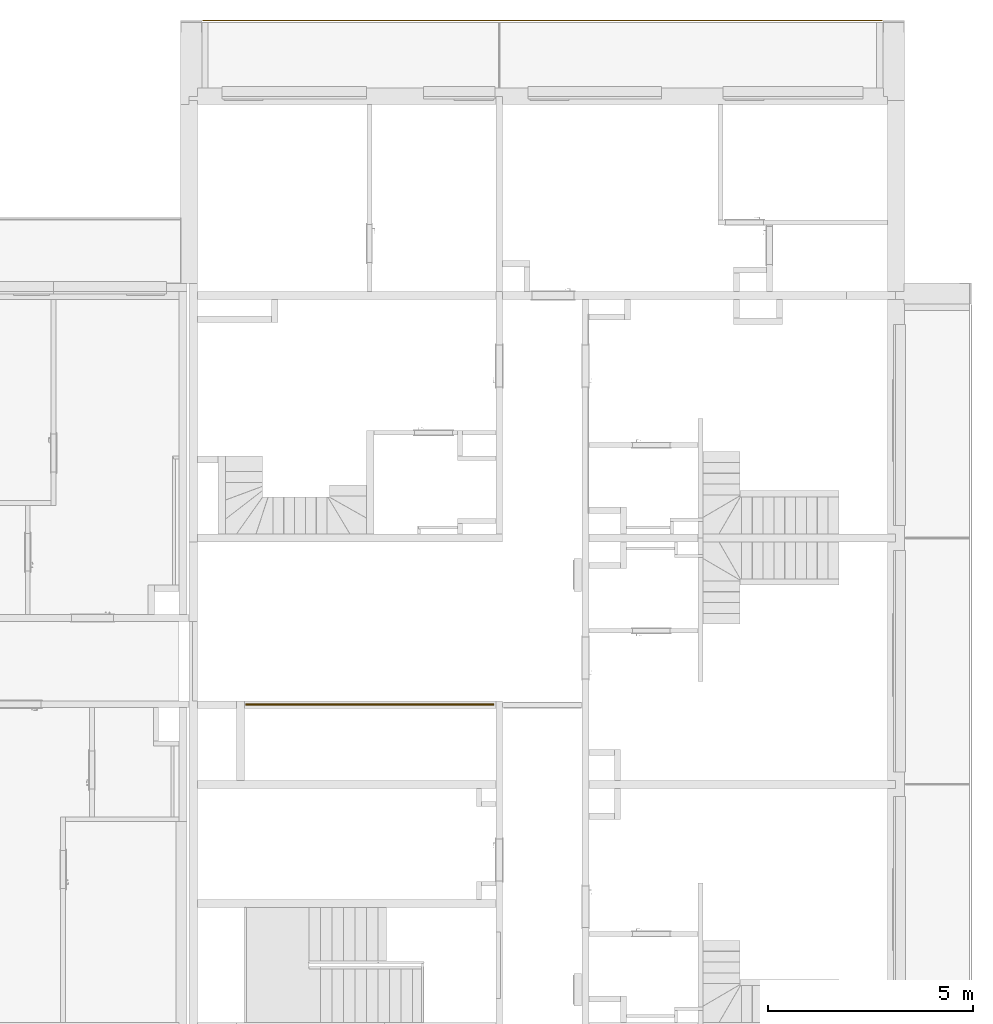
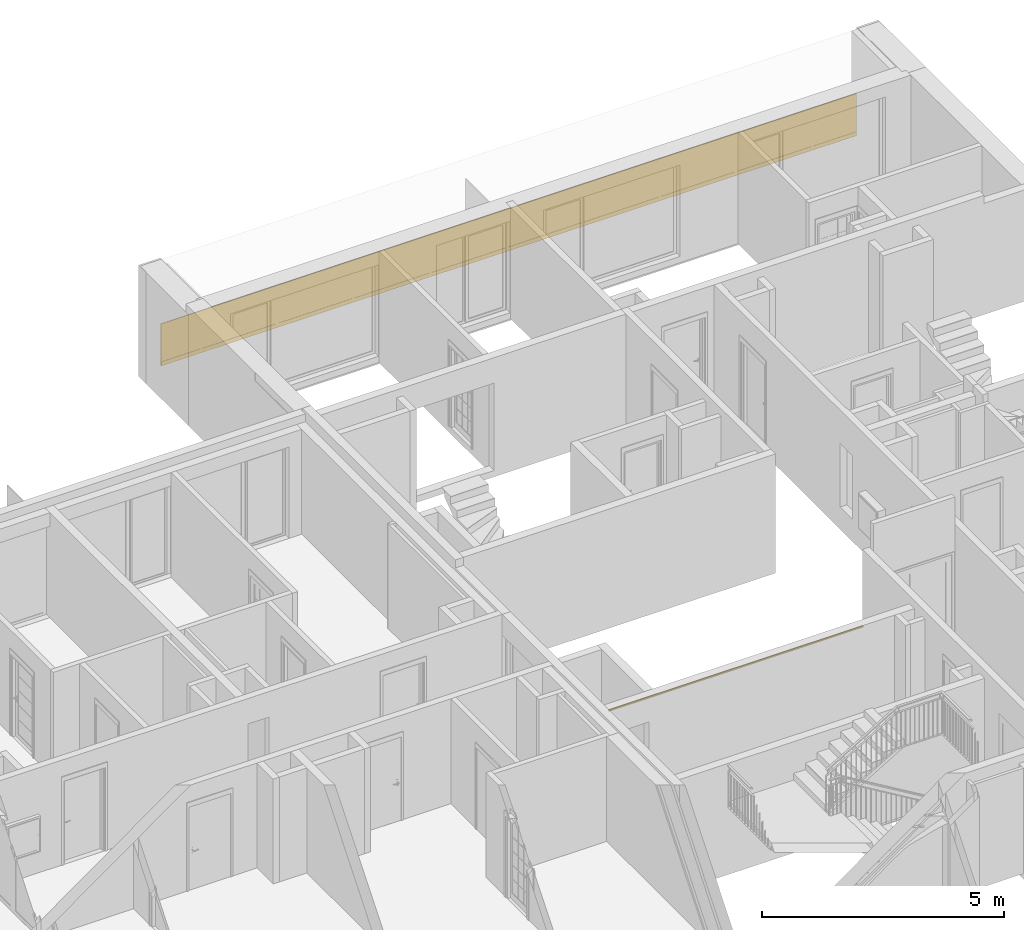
# One storey, part 10 of 61: 2 railings.
"""IFC2X3 building model written with IfcOpenShell, lengths in millimetres."""

from ifc_helpers import new_model, entity, si_unit, converted_unit, derived_unit, money_unit, direction, frame, origin_with_axes, place, context, subcontext, project, spatial, faceted_brep, material, material_list, type_object, element, save


model = new_model("IFC2X3")

# Units and contexts
model_context = context("Model", 3, precision=0.01, world=origin_with_axes(), true_north=direction((0.34421633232, 0.938890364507)))
body_context = subcontext(model_context, "Body", "Model", "MODEL_VIEW")
ifc_project = project(units=[si_unit("LENGTHUNIT", "METRE", prefix="MILLI"), si_unit("AREAUNIT", "SQUARE_METRE"), si_unit("VOLUMEUNIT", "CUBIC_METRE"), converted_unit("PLANEANGLEUNIT", "DEGREE", entity("IfcPlaneAngleMeasure", 0.0174532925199), si_unit("PLANEANGLEUNIT", "RADIAN"), dimensions=[0, 0, 0, 0, 0, 0, 0]), si_unit("SOLIDANGLEUNIT", "STERADIAN"), money_unit("USD"), converted_unit("TIMEUNIT", "Year", entity("IfcTimeMeasure", 31556926.0), si_unit("TIMEUNIT", "SECOND"), dimensions=[0, 0, 1, 0, 0, 0, 0]), si_unit("MASSUNIT", "GRAM", prefix="KILO"), si_unit("THERMODYNAMICTEMPERATUREUNIT", "DEGREE_CELSIUS"), si_unit("LUMINOUSINTENSITYUNIT", "LUMEN"), si_unit("ENERGYUNIT", "JOULE", prefix="MEGA"), derived_unit("THERMALCONDUCTANCEUNIT", [(si_unit("POWERUNIT", "WATT"), 1), (si_unit("LENGTHUNIT", "METRE"), -1), (si_unit("THERMODYNAMICTEMPERATUREUNIT", "KELVIN"), -1)]), derived_unit("SPECIFICHEATCAPACITYUNIT", [(si_unit("ENERGYUNIT", "JOULE"), 1), (si_unit("MASSUNIT", "GRAM", prefix="KILO"), -1), (si_unit("THERMODYNAMICTEMPERATUREUNIT", "KELVIN"), -1)]), derived_unit("MASSDENSITYUNIT", [(si_unit("MASSUNIT", "GRAM", prefix="KILO"), 1), (si_unit("VOLUMEUNIT", "CUBIC_METRE"), -1)])], contexts=[model_context])

# Site, building, storey
site_placement = place(None, origin_with_axes())
site = spatial("IfcSite", under=ifc_project, at=site_placement, Name="USTRONIE MORSKIE", CompositionType="ELEMENT")
building_placement = place(site_placement, origin_with_axes())
building = spatial("IfcBuilding", under=site, at=building_placement, Name="Budynek", CompositionType="ELEMENT")
storey_placement = place(building_placement, frame((0.0, 0.0, 13000.0), z_axis=(0.0, 0.0, 1.0), x_axis=(1.0, 0.0, 0.0)))
storey = spatial("IfcBuildingStorey", under=building, at=storey_placement, Name="PIĘTRO 4", CompositionType="ELEMENT", Elevation=13000.0)

# Railings
ifc_material_1 = material(Name="Stal nierdzewna")
ifc_material_list_1 = material_list([ifc_material_1, ifc_material_1, ifc_material_1])
railing_type = type_object("IfcRailingType", Name="Typ balustrady", PredefinedType="NOTDEFINED")
railing_1_placement = place(storey_placement, frame((409867.915713, 734741.198985, 0.0), z_axis=(0.0, 0.0, 1.0), x_axis=(1.0, 0.0, 0.0)))
element("IfcRailing", 1, at=railing_1_placement, inside=storey, type_object=railing_type, material=ifc_material_list_1, Name="BL1", PredefinedType="NOTDEFINED", context=body_context, shape_type="Brep", body=[
    faceted_brep([(20.0, -25.0, 975.0), (20.0, -24.6201938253, 979.341204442), (-30.0, -24.6201938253, 979.341204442), (-30.0, -25.0, 975.0), (20.0, -24.6201938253, 970.658795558), (20.0, -23.4923155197, 966.449496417), (20.0, -21.6506350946, 962.5), (20.0, -19.151111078, 958.930309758), (20.0, -16.0696902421, 955.848888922), (20.0, -12.5, 953.349364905), (20.0, -8.55050358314, 951.50768448), (20.0, -4.34120444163, 950.379806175), (20.0, 0.0, 950.0), (20.0, 4.34120444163, 950.379806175), (20.0, 8.55050358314, 951.50768448), (20.0, 12.5, 953.349364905), (20.0, 16.0696902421, 955.848888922), (20.0, 19.151111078, 958.930309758), (20.0, 21.6506350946, 962.5), (20.0, 23.4923155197, 966.449496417), (20.0, 24.6201938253, 970.658795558), (20.0, 25.0, 975.0), (20.0, 24.6201938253, 979.341204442), (20.0, 23.4923155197, 983.550503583), (20.0, 21.6506350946, 987.5), (20.0, 19.151111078, 991.069690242), (20.0, 16.0696902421, 994.151111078), (20.0, 12.5, 996.650635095), (20.0, 8.55050358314, 998.49231552), (20.0, 4.34120444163, 999.620193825), (20.0, 0.0, 1000.0), (20.0, -4.34120444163, 999.620193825), (20.0, -8.55050358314, 998.49231552), (20.0, -12.5, 996.650635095), (20.0, -16.0696902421, 994.151111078), (20.0, -19.151111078, 991.069690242), (20.0, -21.6506350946, 987.5), (20.0, -23.4923155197, 983.550503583), (20.0, -15.0, 975.0), (20.0, -14.7721162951, 977.604722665), (20.0, -14.0953893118, 980.13030215), (20.0, -12.9903810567, 982.5), (20.0, -11.4906666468, 984.641814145), (20.0, -9.64181414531, 986.490666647), (20.0, -7.50000000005, 987.990381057), (20.0, -5.13030214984, 989.095389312), (20.0, -2.60472266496, 989.772116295), (20.0, 0.0, 990.0), (20.0, 2.60472266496, 989.772116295), (20.0, 5.13030214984, 989.095389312), (20.0, 7.50000000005, 987.990381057), (20.0, 9.64181414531, 986.490666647), (20.0, 11.4906666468, 984.641814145), (20.0, 12.9903810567, 982.5), (20.0, 14.0953893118, 980.13030215), (20.0, 14.7721162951, 977.604722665), (20.0, 15.0, 975.0), (20.0, 14.7721162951, 972.395277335), (20.0, 14.0953893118, 969.86969785), (20.0, 12.9903810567, 967.5), (20.0, 11.4906666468, 965.358185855), (20.0, 9.64181414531, 963.509333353), (20.0, 7.50000000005, 962.009618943), (20.0, 5.13030214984, 960.904610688), (20.0, 2.60472266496, 960.227883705), (20.0, 0.0, 960.0), (20.0, -2.60472266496, 960.227883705), (20.0, -5.13030214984, 960.904610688), (20.0, -7.50000000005, 962.009618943), (20.0, -9.64181414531, 963.509333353), (20.0, -11.4906666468, 965.358185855), (20.0, -12.9903810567, 967.5), (20.0, -14.0953893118, 969.86969785), (20.0, -14.7721162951, 972.395277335), (-30.0, -23.4923155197, 983.550503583), (-30.0, -21.6506350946, 987.5), (-30.0, -19.151111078, 991.069690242), (-30.0, -16.0696902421, 994.151111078), (-30.0, -12.5, 996.650635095), (-30.0, -8.55050358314, 998.49231552), (-30.0, -4.34120444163, 999.620193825), (-30.0, 0.0, 1000.0), (-30.0, 4.34120444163, 999.620193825), (-30.0, 8.55050358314, 998.49231552), (-30.0, 12.5, 996.650635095), (-30.0, 16.0696902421, 994.151111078), (-30.0, 19.151111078, 991.069690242), (-30.0, 21.6506350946, 987.5), (-30.0, 23.4923155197, 983.550503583), (-30.0, 24.6201938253, 979.341204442), (-30.0, 25.0, 975.0), (-30.0, 24.6201938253, 970.658795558), (-30.0, 23.4923155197, 966.449496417), (-30.0, 21.6506350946, 962.5), (-30.0, 19.151111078, 958.930309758), (-30.0, 16.0696902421, 955.848888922), (-30.0, 12.5, 953.349364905), (-30.0, 8.55050358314, 951.50768448), (-30.0, 4.34120444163, 950.379806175), (-30.0, 0.0, 950.0), (-30.0, -4.34120444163, 950.379806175), (-30.0, -8.55050358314, 951.50768448), (-30.0, -12.5, 953.349364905), (-30.0, -16.0696902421, 955.848888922), (-30.0, -19.151111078, 958.930309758), (-30.0, -21.6506350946, 962.5), (-30.0, -23.4923155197, 966.449496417), (-30.0, -24.6201938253, 970.658795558), (-30.0, -15.0, 975.0), (-30.0, -14.7721162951, 972.395277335), (-30.0, -14.0953893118, 969.86969785), (-30.0, -12.9903810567, 967.5), (-30.0, -11.4906666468, 965.358185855), (-30.0, -9.64181414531, 963.509333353), (-30.0, -7.50000000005, 962.009618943), (-30.0, -5.13030214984, 960.904610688), (-30.0, -2.60472266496, 960.227883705), (-30.0, 0.0, 960.0), (-30.0, 2.60472266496, 960.227883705), (-30.0, 5.13030214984, 960.904610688), (-30.0, 7.50000000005, 962.009618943), (-30.0, 9.64181414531, 963.509333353), (-30.0, 11.4906666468, 965.358185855), (-30.0, 12.9903810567, 967.5), (-30.0, 14.0953893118, 969.86969785), (-30.0, 14.7721162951, 972.395277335), (-30.0, 15.0, 975.0), (-30.0, 14.7721162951, 977.604722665), (-30.0, 14.0953893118, 980.13030215), (-30.0, 12.9903810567, 982.5), (-30.0, 11.4906666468, 984.641814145), (-30.0, 9.64181414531, 986.490666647), (-30.0, 7.50000000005, 987.990381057), (-30.0, 5.13030214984, 989.095389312), (-30.0, 2.60472266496, 989.772116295), (-30.0, 0.0, 990.0), (-30.0, -2.60472266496, 989.772116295), (-30.0, -5.13030214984, 989.095389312), (-30.0, -7.50000000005, 987.990381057), (-30.0, -9.64181414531, 986.490666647), (-30.0, -11.4906666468, 984.641814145), (-30.0, -12.9903810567, 982.5), (-30.0, -14.0953893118, 980.13030215), (-30.0, -14.7721162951, 977.604722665)], [[[0, 1, 2, 3]], [[0, 4, 5, 6, 7, 8, 9, 10, 11, 12, 13, 14, 15, 16, 17, 18, 19, 20, 21, 22, 23, 24, 25, 26, 27, 28, 29, 30, 31, 32, 33, 34, 35, 36, 37, 1], [38, 39, 40, 41, 42, 43, 44, 45, 46, 47, 48, 49, 50, 51, 52, 53, 54, 55, 56, 57, 58, 59, 60, 61, 62, 63, 64, 65, 66, 67, 68, 69, 70, 71, 72, 73]], [[1, 37, 74, 2]], [[3, 2, 74, 75, 76, 77, 78, 79, 80, 81, 82, 83, 84, 85, 86, 87, 88, 89, 90, 91, 92, 93, 94, 95, 96, 97, 98, 99, 100, 101, 102, 103, 104, 105, 106, 107], [108, 109, 110, 111, 112, 113, 114, 115, 116, 117, 118, 119, 120, 121, 122, 123, 124, 125, 126, 127, 128, 129, 130, 131, 132, 133, 134, 135, 136, 137, 138, 139, 140, 141, 142, 143]], [[4, 0, 3, 107]], [[5, 4, 107, 106]], [[6, 5, 106, 105]], [[7, 6, 105, 104]], [[8, 7, 104, 103]], [[9, 8, 103, 102]], [[10, 9, 102, 101]], [[11, 10, 101, 100]], [[12, 11, 100, 99]], [[13, 12, 99, 98]], [[14, 13, 98, 97]], [[15, 14, 97, 96]], [[16, 15, 96, 95]], [[17, 16, 95, 94]], [[18, 17, 94, 93]], [[19, 18, 93, 92]], [[20, 19, 92, 91]], [[21, 20, 91, 90]], [[22, 21, 90, 89]], [[23, 22, 89, 88]], [[24, 23, 88, 87]], [[25, 24, 87, 86]], [[26, 25, 86, 85]], [[27, 26, 85, 84]], [[28, 27, 84, 83]], [[29, 28, 83, 82]], [[30, 29, 82, 81]], [[31, 30, 81, 80]], [[32, 31, 80, 79]], [[33, 32, 79, 78]], [[34, 33, 78, 77]], [[35, 34, 77, 76]], [[36, 35, 76, 75]], [[37, 36, 75, 74]], [[39, 38, 108, 143]], [[40, 39, 143, 142]], [[41, 40, 142, 141]], [[42, 41, 141, 140]], [[43, 42, 140, 139]], [[44, 43, 139, 138]], [[45, 44, 138, 137]], [[46, 45, 137, 136]], [[47, 46, 136, 135]], [[48, 47, 135, 134]], [[49, 48, 134, 133]], [[50, 49, 133, 132]], [[51, 50, 132, 131]], [[52, 51, 131, 130]], [[53, 52, 130, 129]], [[54, 53, 129, 128]], [[55, 54, 128, 127]], [[56, 55, 127, 126]], [[57, 56, 126, 125]], [[58, 57, 125, 124]], [[59, 58, 124, 123]], [[60, 59, 123, 122]], [[61, 60, 122, 121]], [[62, 61, 121, 120]], [[63, 62, 120, 119]], [[64, 63, 119, 118]], [[65, 64, 118, 117]], [[66, 65, 117, 116]], [[67, 66, 116, 115]], [[68, 67, 115, 114]], [[69, 68, 114, 113]], [[70, 69, 113, 112]], [[71, 70, 112, 111]], [[72, 71, 111, 110]], [[73, 72, 110, 109]], [[38, 73, 109, 108]]]),
    faceted_brep([(5970.00520575, 25.0, 975.0), (5970.00520575, 24.6201938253, 979.341204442), (6020.00520575, 24.6201938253, 979.341204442), (6020.00520575, 25.0, 975.0), (5970.00520575, 24.6201938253, 970.658795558), (5970.00520575, 23.4923155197, 966.449496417), (5970.00520575, 21.6506350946, 962.5), (5970.00520575, 19.151111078, 958.930309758), (5970.00520575, 16.0696902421, 955.848888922), (5970.00520575, 12.5, 953.349364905), (5970.00520575, 8.55050358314, 951.50768448), (5970.00520575, 4.34120444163, 950.379806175), (5970.00520575, 0.0, 950.0), (5970.00520575, -4.34120444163, 950.379806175), (5970.00520575, -8.55050358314, 951.50768448), (5970.00520575, -12.5, 953.349364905), (5970.00520575, -16.0696902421, 955.848888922), (5970.00520575, -19.151111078, 958.930309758), (5970.00520575, -21.6506350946, 962.5), (5970.00520575, -23.4923155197, 966.449496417), (5970.00520575, -24.6201938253, 970.658795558), (5970.00520575, -25.0, 975.0), (5970.00520575, -24.6201938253, 979.341204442), (5970.00520575, -23.4923155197, 983.550503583), (5970.00520575, -21.6506350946, 987.5), (5970.00520575, -19.151111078, 991.069690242), (5970.00520575, -16.0696902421, 994.151111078), (5970.00520575, -12.5, 996.650635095), (5970.00520575, -8.55050358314, 998.49231552), (5970.00520575, -4.34120444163, 999.620193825), (5970.00520575, 0.0, 1000.0), (5970.00520575, 4.34120444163, 999.620193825), (5970.00520575, 8.55050358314, 998.49231552), (5970.00520575, 12.5, 996.650635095), (5970.00520575, 16.0696902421, 994.151111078), (5970.00520575, 19.151111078, 991.069690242), (5970.00520575, 21.6506350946, 987.5), (5970.00520575, 23.4923155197, 983.550503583), (5970.00520575, 15.0, 975.0), (5970.00520575, 14.7721162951, 977.604722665), (5970.00520575, 14.0953893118, 980.13030215), (5970.00520575, 12.9903810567, 982.5), (5970.00520575, 11.4906666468, 984.641814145), (5970.00520575, 9.64181414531, 986.490666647), (5970.00520575, 7.50000000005, 987.990381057), (5970.00520575, 5.13030214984, 989.095389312), (5970.00520575, 2.60472266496, 989.772116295), (5970.00520575, 0.0, 990.0), (5970.00520575, -2.60472266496, 989.772116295), (5970.00520575, -5.13030214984, 989.095389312), (5970.00520575, -7.50000000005, 987.990381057), (5970.00520575, -9.64181414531, 986.490666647), (5970.00520575, -11.4906666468, 984.641814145), (5970.00520575, -12.9903810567, 982.5), (5970.00520575, -14.0953893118, 980.13030215), (5970.00520575, -14.7721162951, 977.604722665), (5970.00520575, -15.0, 975.0), (5970.00520575, -14.7721162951, 972.395277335), (5970.00520575, -14.0953893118, 969.86969785), (5970.00520575, -12.9903810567, 967.5), (5970.00520575, -11.4906666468, 965.358185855), (5970.00520575, -9.64181414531, 963.509333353), (5970.00520575, -7.50000000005, 962.009618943), (5970.00520575, -5.13030214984, 960.904610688), (5970.00520575, -2.60472266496, 960.227883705), (5970.00520575, 0.0, 960.0), (5970.00520575, 2.60472266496, 960.227883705), (5970.00520575, 5.13030214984, 960.904610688), (5970.00520575, 7.50000000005, 962.009618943), (5970.00520575, 9.64181414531, 963.509333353), (5970.00520575, 11.4906666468, 965.358185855), (5970.00520575, 12.9903810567, 967.5), (5970.00520575, 14.0953893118, 969.86969785), (5970.00520575, 14.7721162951, 972.395277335), (6020.00520575, 23.4923155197, 983.550503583), (6020.00520575, 21.6506350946, 987.5), (6020.00520575, 19.151111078, 991.069690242), (6020.00520575, 16.0696902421, 994.151111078), (6020.00520575, 12.5, 996.650635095), (6020.00520575, 8.55050358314, 998.49231552), (6020.00520575, 4.34120444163, 999.620193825), (6020.00520575, 0.0, 1000.0), (6020.00520575, -4.34120444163, 999.620193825), (6020.00520575, -8.55050358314, 998.49231552), (6020.00520575, -12.5, 996.650635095), (6020.00520575, -16.0696902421, 994.151111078), (6020.00520575, -19.151111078, 991.069690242), (6020.00520575, -21.6506350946, 987.5), (6020.00520575, -23.4923155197, 983.550503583), (6020.00520575, -24.6201938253, 979.341204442), (6020.00520575, -25.0, 975.0), (6020.00520575, -24.6201938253, 970.658795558), (6020.00520575, -23.4923155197, 966.449496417), (6020.00520575, -21.6506350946, 962.5), (6020.00520575, -19.151111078, 958.930309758), (6020.00520575, -16.0696902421, 955.848888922), (6020.00520575, -12.5, 953.349364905), (6020.00520575, -8.55050358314, 951.50768448), (6020.00520575, -4.34120444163, 950.379806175), (6020.00520575, 0.0, 950.0), (6020.00520575, 4.34120444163, 950.379806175), (6020.00520575, 8.55050358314, 951.50768448), (6020.00520575, 12.5, 953.349364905), (6020.00520575, 16.0696902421, 955.848888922), (6020.00520575, 19.151111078, 958.930309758), (6020.00520575, 21.6506350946, 962.5), (6020.00520575, 23.4923155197, 966.449496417), (6020.00520575, 24.6201938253, 970.658795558), (6020.00520575, 15.0, 975.0), (6020.00520575, 14.7721162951, 972.395277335), (6020.00520575, 14.0953893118, 969.86969785), (6020.00520575, 12.9903810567, 967.5), (6020.00520575, 11.4906666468, 965.358185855), (6020.00520575, 9.64181414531, 963.509333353), (6020.00520575, 7.50000000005, 962.009618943), (6020.00520575, 5.13030214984, 960.904610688), (6020.00520575, 2.60472266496, 960.227883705), (6020.00520575, 0.0, 960.0), (6020.00520575, -2.60472266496, 960.227883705), (6020.00520575, -5.13030214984, 960.904610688), (6020.00520575, -7.50000000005, 962.009618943), (6020.00520575, -9.64181414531, 963.509333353), (6020.00520575, -11.4906666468, 965.358185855), (6020.00520575, -12.9903810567, 967.5), (6020.00520575, -14.0953893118, 969.86969785), (6020.00520575, -14.7721162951, 972.395277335), (6020.00520575, -15.0, 975.0), (6020.00520575, -14.7721162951, 977.604722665), (6020.00520575, -14.0953893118, 980.13030215), (6020.00520575, -12.9903810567, 982.5), (6020.00520575, -11.4906666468, 984.641814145), (6020.00520575, -9.64181414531, 986.490666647), (6020.00520575, -7.50000000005, 987.990381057), (6020.00520575, -5.13030214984, 989.095389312), (6020.00520575, -2.60472266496, 989.772116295), (6020.00520575, 0.0, 990.0), (6020.00520575, 2.60472266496, 989.772116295), (6020.00520575, 5.13030214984, 989.095389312), (6020.00520575, 7.50000000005, 987.990381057), (6020.00520575, 9.64181414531, 986.490666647), (6020.00520575, 11.4906666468, 984.641814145), (6020.00520575, 12.9903810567, 982.5), (6020.00520575, 14.0953893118, 980.13030215), (6020.00520575, 14.7721162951, 977.604722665)], [[[0, 1, 2, 3]], [[0, 4, 5, 6, 7, 8, 9, 10, 11, 12, 13, 14, 15, 16, 17, 18, 19, 20, 21, 22, 23, 24, 25, 26, 27, 28, 29, 30, 31, 32, 33, 34, 35, 36, 37, 1], [38, 39, 40, 41, 42, 43, 44, 45, 46, 47, 48, 49, 50, 51, 52, 53, 54, 55, 56, 57, 58, 59, 60, 61, 62, 63, 64, 65, 66, 67, 68, 69, 70, 71, 72, 73]], [[1, 37, 74, 2]], [[3, 2, 74, 75, 76, 77, 78, 79, 80, 81, 82, 83, 84, 85, 86, 87, 88, 89, 90, 91, 92, 93, 94, 95, 96, 97, 98, 99, 100, 101, 102, 103, 104, 105, 106, 107], [108, 109, 110, 111, 112, 113, 114, 115, 116, 117, 118, 119, 120, 121, 122, 123, 124, 125, 126, 127, 128, 129, 130, 131, 132, 133, 134, 135, 136, 137, 138, 139, 140, 141, 142, 143]], [[4, 0, 3, 107]], [[5, 4, 107, 106]], [[6, 5, 106, 105]], [[7, 6, 105, 104]], [[8, 7, 104, 103]], [[9, 8, 103, 102]], [[10, 9, 102, 101]], [[11, 10, 101, 100]], [[12, 11, 100, 99]], [[13, 12, 99, 98]], [[14, 13, 98, 97]], [[15, 14, 97, 96]], [[16, 15, 96, 95]], [[17, 16, 95, 94]], [[18, 17, 94, 93]], [[19, 18, 93, 92]], [[20, 19, 92, 91]], [[21, 20, 91, 90]], [[22, 21, 90, 89]], [[23, 22, 89, 88]], [[24, 23, 88, 87]], [[25, 24, 87, 86]], [[26, 25, 86, 85]], [[27, 26, 85, 84]], [[28, 27, 84, 83]], [[29, 28, 83, 82]], [[30, 29, 82, 81]], [[31, 30, 81, 80]], [[32, 31, 80, 79]], [[33, 32, 79, 78]], [[34, 33, 78, 77]], [[35, 34, 77, 76]], [[36, 35, 76, 75]], [[37, 36, 75, 74]], [[39, 38, 108, 143]], [[40, 39, 143, 142]], [[41, 40, 142, 141]], [[42, 41, 141, 140]], [[43, 42, 140, 139]], [[44, 43, 139, 138]], [[45, 44, 138, 137]], [[46, 45, 137, 136]], [[47, 46, 136, 135]], [[48, 47, 135, 134]], [[49, 48, 134, 133]], [[50, 49, 133, 132]], [[51, 50, 132, 131]], [[52, 51, 131, 130]], [[53, 52, 130, 129]], [[54, 53, 129, 128]], [[55, 54, 128, 127]], [[56, 55, 127, 126]], [[57, 56, 126, 125]], [[58, 57, 125, 124]], [[59, 58, 124, 123]], [[60, 59, 123, 122]], [[61, 60, 122, 121]], [[62, 61, 121, 120]], [[63, 62, 120, 119]], [[64, 63, 119, 118]], [[65, 64, 118, 117]], [[66, 65, 117, 116]], [[67, 66, 116, 115]], [[68, 67, 115, 114]], [[69, 68, 114, 113]], [[70, 69, 113, 112]], [[71, 70, 112, 111]], [[72, 71, 111, 110]], [[73, 72, 110, 109]], [[38, 73, 109, 108]]]),
    faceted_brep([(20.0, 25.0, 975.0), (20.0, 24.6201938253, 979.341204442), (5970.00520575, 24.6201938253, 979.341204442), (5970.00520575, 25.0, 975.0), (20.0, 24.6201938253, 970.658795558), (20.0, 23.4923155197, 966.449496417), (20.0, 21.6506350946, 962.5), (20.0, 19.151111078, 958.930309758), (20.0, 16.0696902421, 955.848888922), (20.0, 12.5, 953.349364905), (20.0, 8.55050358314, 951.50768448), (20.0, 4.34120444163, 950.379806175), (20.0, 0.0, 950.0), (20.0, -4.34120444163, 950.379806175), (20.0, -8.55050358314, 951.50768448), (20.0, -12.5, 953.349364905), (20.0, -16.0696902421, 955.848888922), (20.0, -19.151111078, 958.930309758), (20.0, -21.6506350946, 962.5), (20.0, -23.4923155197, 966.449496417), (20.0, -24.6201938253, 970.658795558), (20.0, -25.0, 975.0), (20.0, -24.6201938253, 979.341204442), (20.0, -23.4923155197, 983.550503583), (20.0, -21.6506350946, 987.5), (20.0, -19.151111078, 991.069690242), (20.0, -16.0696902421, 994.151111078), (20.0, -12.5, 996.650635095), (20.0, -8.55050358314, 998.49231552), (20.0, -4.34120444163, 999.620193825), (20.0, 0.0, 1000.0), (20.0, 4.34120444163, 999.620193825), (20.0, 8.55050358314, 998.49231552), (20.0, 12.5, 996.650635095), (20.0, 16.0696902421, 994.151111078), (20.0, 19.151111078, 991.069690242), (20.0, 21.6506350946, 987.5), (20.0, 23.4923155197, 983.550503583), (20.0, 15.0, 975.0), (20.0, 14.7721162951, 977.604722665), (20.0, 14.0953893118, 980.13030215), (20.0, 12.9903810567, 982.5), (20.0, 11.4906666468, 984.641814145), (20.0, 9.64181414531, 986.490666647), (20.0, 7.50000000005, 987.990381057), (20.0, 5.13030214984, 989.095389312), (20.0, 2.60472266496, 989.772116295), (20.0, 0.0, 990.0), (20.0, -2.60472266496, 989.772116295), (20.0, -5.13030214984, 989.095389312), (20.0, -7.50000000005, 987.990381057), (20.0, -9.64181414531, 986.490666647), (20.0, -11.4906666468, 984.641814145), (20.0, -12.9903810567, 982.5), (20.0, -14.0953893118, 980.13030215), (20.0, -14.7721162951, 977.604722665), (20.0, -15.0, 975.0), (20.0, -14.7721162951, 972.395277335), (20.0, -14.0953893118, 969.86969785), (20.0, -12.9903810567, 967.5), (20.0, -11.4906666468, 965.358185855), (20.0, -9.64181414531, 963.509333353), (20.0, -7.50000000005, 962.009618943), (20.0, -5.13030214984, 960.904610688), (20.0, -2.60472266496, 960.227883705), (20.0, 0.0, 960.0), (20.0, 2.60472266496, 960.227883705), (20.0, 5.13030214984, 960.904610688), (20.0, 7.50000000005, 962.009618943), (20.0, 9.64181414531, 963.509333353), (20.0, 11.4906666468, 965.358185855), (20.0, 12.9903810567, 967.5), (20.0, 14.0953893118, 969.86969785), (20.0, 14.7721162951, 972.395277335), (5970.00520575, 23.4923155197, 983.550503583), (5970.00520575, 21.6506350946, 987.5), (5970.00520575, 19.151111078, 991.069690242), (5970.00520575, 16.0696902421, 994.151111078), (5970.00520575, 12.5, 996.650635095), (5970.00520575, 8.55050358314, 998.49231552), (5970.00520575, 4.34120444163, 999.620193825), (5970.00520575, 0.0, 1000.0), (5970.00520575, -4.34120444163, 999.620193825), (5970.00520575, -8.55050358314, 998.49231552), (5970.00520575, -12.5, 996.650635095), (5970.00520575, -16.0696902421, 994.151111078), (5970.00520575, -19.151111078, 991.069690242), (5970.00520575, -21.6506350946, 987.5), (5970.00520575, -23.4923155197, 983.550503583), (5970.00520575, -24.6201938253, 979.341204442), (5970.00520575, -25.0, 975.0), (5970.00520575, -24.6201938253, 970.658795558), (5970.00520575, -23.4923155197, 966.449496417), (5970.00520575, -21.6506350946, 962.5), (5970.00520575, -19.151111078, 958.930309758), (5970.00520575, -16.0696902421, 955.848888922), (5970.00520575, -12.5, 953.349364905), (5970.00520575, -8.55050358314, 951.50768448), (5970.00520575, -4.34120444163, 950.379806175), (5970.00520575, 0.0, 950.0), (5970.00520575, 4.34120444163, 950.379806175), (5970.00520575, 8.55050358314, 951.50768448), (5970.00520575, 12.5, 953.349364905), (5970.00520575, 16.0696902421, 955.848888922), (5970.00520575, 19.151111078, 958.930309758), (5970.00520575, 21.6506350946, 962.5), (5970.00520575, 23.4923155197, 966.449496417), (5970.00520575, 24.6201938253, 970.658795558), (5970.00520575, 15.0, 975.0), (5970.00520575, 14.7721162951, 972.395277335), (5970.00520575, 14.0953893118, 969.86969785), (5970.00520575, 12.9903810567, 967.5), (5970.00520575, 11.4906666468, 965.358185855), (5970.00520575, 9.64181414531, 963.509333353), (5970.00520575, 7.50000000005, 962.009618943), (5970.00520575, 5.13030214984, 960.904610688), (5970.00520575, 2.60472266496, 960.227883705), (5970.00520575, 0.0, 960.0), (5970.00520575, -2.60472266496, 960.227883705), (5970.00520575, -5.13030214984, 960.904610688), (5970.00520575, -7.50000000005, 962.009618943), (5970.00520575, -9.64181414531, 963.509333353), (5970.00520575, -11.4906666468, 965.358185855), (5970.00520575, -12.9903810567, 967.5), (5970.00520575, -14.0953893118, 969.86969785), (5970.00520575, -14.7721162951, 972.395277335), (5970.00520575, -15.0, 975.0), (5970.00520575, -14.7721162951, 977.604722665), (5970.00520575, -14.0953893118, 980.13030215), (5970.00520575, -12.9903810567, 982.5), (5970.00520575, -11.4906666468, 984.641814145), (5970.00520575, -9.64181414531, 986.490666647), (5970.00520575, -7.50000000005, 987.990381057), (5970.00520575, -5.13030214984, 989.095389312), (5970.00520575, -2.60472266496, 989.772116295), (5970.00520575, 0.0, 990.0), (5970.00520575, 2.60472266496, 989.772116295), (5970.00520575, 5.13030214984, 989.095389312), (5970.00520575, 7.50000000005, 987.990381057), (5970.00520575, 9.64181414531, 986.490666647), (5970.00520575, 11.4906666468, 984.641814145), (5970.00520575, 12.9903810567, 982.5), (5970.00520575, 14.0953893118, 980.13030215), (5970.00520575, 14.7721162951, 977.604722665)], [[[0, 1, 2, 3]], [[0, 4, 5, 6, 7, 8, 9, 10, 11, 12, 13, 14, 15, 16, 17, 18, 19, 20, 21, 22, 23, 24, 25, 26, 27, 28, 29, 30, 31, 32, 33, 34, 35, 36, 37, 1], [38, 39, 40, 41, 42, 43, 44, 45, 46, 47, 48, 49, 50, 51, 52, 53, 54, 55, 56, 57, 58, 59, 60, 61, 62, 63, 64, 65, 66, 67, 68, 69, 70, 71, 72, 73]], [[1, 37, 74, 2]], [[3, 2, 74, 75, 76, 77, 78, 79, 80, 81, 82, 83, 84, 85, 86, 87, 88, 89, 90, 91, 92, 93, 94, 95, 96, 97, 98, 99, 100, 101, 102, 103, 104, 105, 106, 107], [108, 109, 110, 111, 112, 113, 114, 115, 116, 117, 118, 119, 120, 121, 122, 123, 124, 125, 126, 127, 128, 129, 130, 131, 132, 133, 134, 135, 136, 137, 138, 139, 140, 141, 142, 143]], [[4, 0, 3, 107]], [[5, 4, 107, 106]], [[6, 5, 106, 105]], [[7, 6, 105, 104]], [[8, 7, 104, 103]], [[9, 8, 103, 102]], [[10, 9, 102, 101]], [[11, 10, 101, 100]], [[12, 11, 100, 99]], [[13, 12, 99, 98]], [[14, 13, 98, 97]], [[15, 14, 97, 96]], [[16, 15, 96, 95]], [[17, 16, 95, 94]], [[18, 17, 94, 93]], [[19, 18, 93, 92]], [[20, 19, 92, 91]], [[21, 20, 91, 90]], [[22, 21, 90, 89]], [[23, 22, 89, 88]], [[24, 23, 88, 87]], [[25, 24, 87, 86]], [[26, 25, 86, 85]], [[27, 26, 85, 84]], [[28, 27, 84, 83]], [[29, 28, 83, 82]], [[30, 29, 82, 81]], [[31, 30, 81, 80]], [[32, 31, 80, 79]], [[33, 32, 79, 78]], [[34, 33, 78, 77]], [[35, 34, 77, 76]], [[36, 35, 76, 75]], [[37, 36, 75, 74]], [[39, 38, 108, 143]], [[40, 39, 143, 142]], [[41, 40, 142, 141]], [[42, 41, 141, 140]], [[43, 42, 140, 139]], [[44, 43, 139, 138]], [[45, 44, 138, 137]], [[46, 45, 137, 136]], [[47, 46, 136, 135]], [[48, 47, 135, 134]], [[49, 48, 134, 133]], [[50, 49, 133, 132]], [[51, 50, 132, 131]], [[52, 51, 131, 130]], [[53, 52, 130, 129]], [[54, 53, 129, 128]], [[55, 54, 128, 127]], [[56, 55, 127, 126]], [[57, 56, 126, 125]], [[58, 57, 125, 124]], [[59, 58, 124, 123]], [[60, 59, 123, 122]], [[61, 60, 122, 121]], [[62, 61, 121, 120]], [[63, 62, 120, 119]], [[64, 63, 119, 118]], [[65, 64, 118, 117]], [[66, 65, 117, 116]], [[67, 66, 116, 115]], [[68, 67, 115, 114]], [[69, 68, 114, 113]], [[70, 69, 113, 112]], [[71, 70, 112, 111]], [[72, 71, 111, 110]], [[73, 72, 110, 109]], [[38, 73, 109, 108]]]),
])
ifc_material_2 = material(Name="Szkło struktualne")
ifc_material_3 = material(Name="Profile aluminiowe")
ifc_material_list_2 = material_list([ifc_material_2, ifc_material_3])
railing_2_placement = place(storey_placement, frame((409067.920919, 751396.199036, 30.0), z_axis=(0.0, 0.0, 1.0), x_axis=(1.0, 0.0, 0.0)))
element("IfcRailing", 2, at=railing_2_placement, inside=storey, type_object=railing_type, material=ifc_material_list_2, Name="BL1", PredefinedType="NOTDEFINED", context=body_context, shape_type="Brep", body=[
    faceted_brep([(16280.0, 9.99999999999, -100.0), (-280.0, 9.99999999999, -100.0), (-280.0, 9.99999999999, 950.0), (16280.0, 9.99999999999, 950.0), (-280.0, -9.99999999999, -100.0), (16280.0, -9.99999999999, -100.0), (-280.0, -9.99999999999, 950.0), (16280.0, -9.99999999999, 950.0)], [[[0, 1, 2, 3]], [[4, 1, 0, 5]], [[6, 2, 1, 4]], [[3, 2, 6, 7]], [[0, 3, 7, 5]], [[6, 4, 5, 7]]]),
    faceted_brep([(16280.0, -15.0, -5.0), (-280.0, -15.0, -5.0), (-280.0, -15.0, -105.0), (16280.0, -15.0, -105.0), (16280.0, -9.99999999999, -5.0), (-280.0, -9.99999999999, -5.0), (-280.0, -9.99999999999, -100.0), (-280.0, 9.99999999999, -100.0), (-280.0, 9.99999999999, -5.0), (-280.0, 15.0, -5.0), (-280.0, 15.0, -105.0), (16280.0, 15.0, -105.0), (16280.0, 15.0, -5.0), (16280.0, 9.99999999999, -5.0), (16280.0, 9.99999999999, -100.0), (16280.0, -9.99999999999, -100.0)], [[[0, 1, 2, 3]], [[1, 0, 4, 5]], [[6, 7, 8, 9, 10, 2, 1, 5]], [[10, 11, 3, 2]], [[11, 12, 13, 14, 15, 4, 0, 3]], [[15, 6, 5, 4]], [[7, 6, 15, 14]], [[8, 7, 14, 13]], [[9, 8, 13, 12]], [[11, 10, 9, 12]]]),
])

save(model, "model.ifc")
